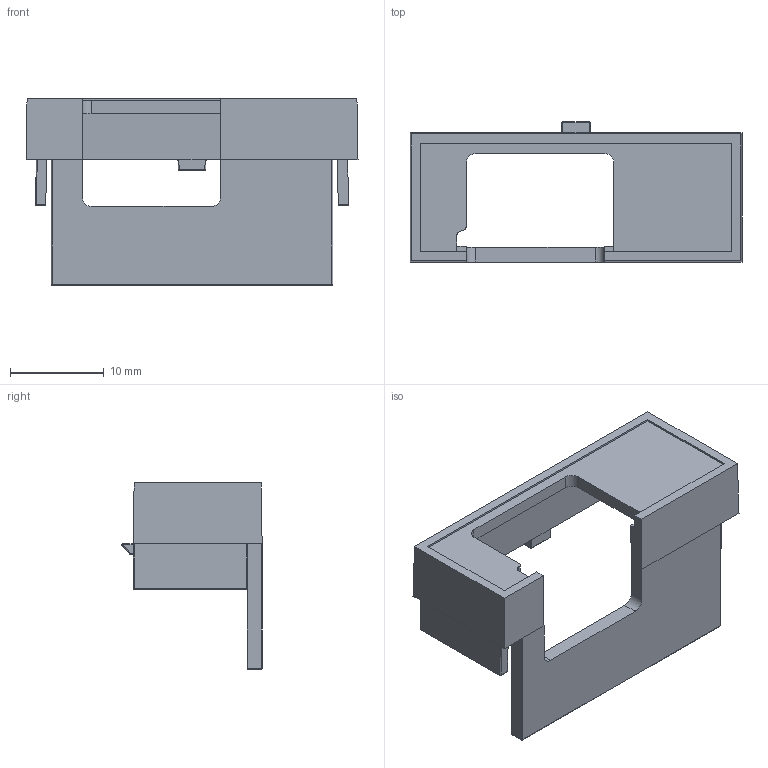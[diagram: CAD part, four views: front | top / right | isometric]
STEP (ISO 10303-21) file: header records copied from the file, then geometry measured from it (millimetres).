
FILE_DESCRIPTION(/* description */ (''),/* implementation_level */ '2;1');
FILE_NAME(/* name */ '1597D2MBC.stp',/* time_stamp */ '2023-08-14T15:01:34-04:00',/* author */ ('mbeerman'),/* organization */ (''),/* preprocessor_version */ 'ST-DEVELOPER v19.2',/* originating_system */ 'Autodesk Inventor 2023',/* authorisation */ '');
FILE_SCHEMA (('AUTOMOTIVE_DESIGN { 1 0 10303 214 3 1 1 }'));
Length unit declared in the file: millimetre
Products named in the file (1): M-02447-SEMPL_PRT
Bounding box: 35.5 x 15 x 19.9 mm (x, y, z)
Volume: 1766.1 mm3; surface area: 2600.4 mm2
Topology: 1 solids, 1 shells, 90 faces, 226 edges, 136 vertices
Faces by surface type: plane 50, cylinder 30, sphere 10
Entity records: 2685 total; most frequent: DIRECTION 464, CARTESIAN_POINT 459, ORIENTED_EDGE 452, EDGE_CURVE 226, LINE 166, VECTOR 166, AXIS2_PLACEMENT_3D 149, VERTEX_POINT 136
